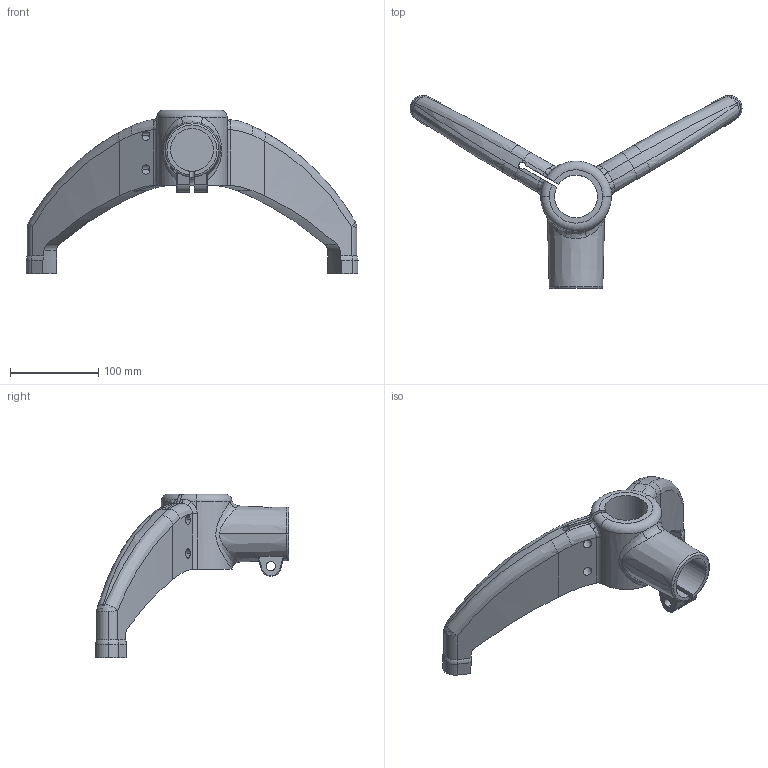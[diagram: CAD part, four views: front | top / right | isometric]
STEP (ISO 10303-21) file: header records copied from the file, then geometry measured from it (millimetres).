
FILE_DESCRIPTION (( 'STEP AP214' ), '1' );
FILE_NAME ('8310041NV.STEP', '2024-01-24T16:21:50', ( '' ), ( '' ), 'SwSTEP 2.0', 'SolidWorks 2022', '' );
FILE_SCHEMA (( 'AUTOMOTIVE_DESIGN' ));
Length unit declared in the file: millimetre
Products named in the file (1): 8310041NV
Bounding box: 375.39 x 218.47 x 185 mm (x, y, z)
Volume: 1088967.8 mm3; surface area: 151902 mm2
Topology: 1 solids, 1 shells, 137 faces, 362 edges, 227 vertices
Faces by surface type: cylinder 54, torus 33, bspline 24, plane 22, cone 4
Entity records: 9171 total; most frequent: CARTESIAN_POINT 5932, ORIENTED_EDGE 724, DIRECTION 633, EDGE_CURVE 362, AXIS2_PLACEMENT_3D 274, VERTEX_POINT 227, CIRCLE 160, EDGE_LOOP 151
